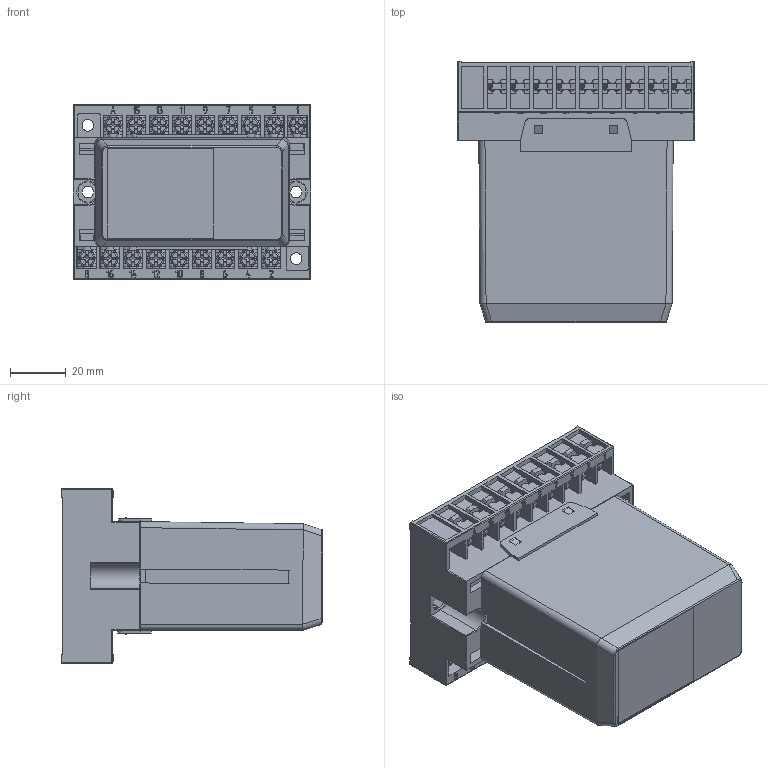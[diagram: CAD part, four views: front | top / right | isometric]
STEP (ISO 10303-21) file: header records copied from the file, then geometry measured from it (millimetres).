
FILE_DESCRIPTION(('STEP AP203'), '1');
FILE_NAME('ÐÝÏ36, ÐÝÏ38Ä (íà ïîêàç)', '2025-05-13T11:59:42', (''), (''), 'ASCON STEP Converter 1.6', 'ASCON Math Kernel', '');
FILE_SCHEMA(('CONFIG_CONTROL_DESIGN'));
Length unit declared in the file: millimetre
Bounding box: 85.4 x 94.11 x 63 mm (x, y, z)
Volume: 63501.8 mm3; surface area: 82822.5 mm2
Topology: 2 solids, 2 shells, 6740 faces, 19604 edges, 12891 vertices
Faces by surface type: plane 3402, cylinder 2746, bspline 276, extrusion 144, cone 108, torus 56, sphere 8
Full cylindrical faces by diameter (mm): 2.45 x36, 3 x18, 3.5 x18, 4.2 x4, 4.4 x2, 4.5 x2, 8 x2, 9 x2
Entity records: 318450 total; most frequent: CARTESIAN_POINT 88549, ORIENTED_EDGE 38916, DIRECTION 34708, EDGE_CURVE 19458, VERTEX_POINT 12891, VECTOR 11878, LINE 11734, AXIS2_PLACEMENT_3D 11415
